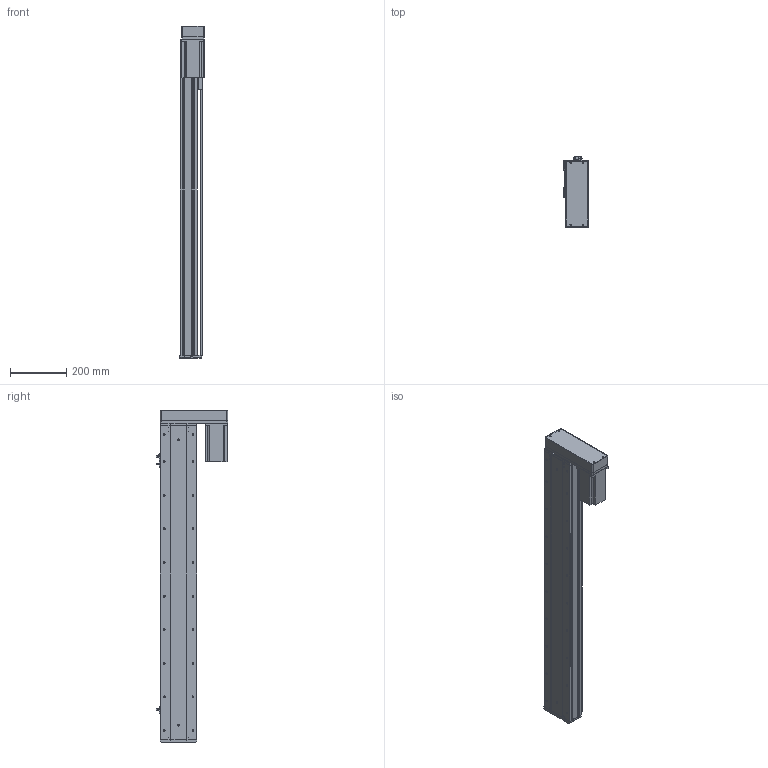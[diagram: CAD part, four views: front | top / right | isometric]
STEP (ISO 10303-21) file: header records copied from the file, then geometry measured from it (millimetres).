
FILE_DESCRIPTION (( 'STEP AP214' ), '1' );
FILE_NAME ('KSD130-P2010-S900-MR-CM.STEP', '2019-09-17T08:43:08', ( '微软用户' ), ( '微软中国' ), 'SwSTEP 2.0', 'SolidWorks 2014', '' );
FILE_SCHEMA (( 'AUTOMOTIVE_DESIGN' ));
Length unit declared in the file: millimetre
Products named in the file (11): 台达ECMA－C20807AS伺服电机; 130宽模组马达安装板连板左右折丝杆; U倰嫖萇EEㄜSX672; 覜茼え100遵圉猾敕; 130宽盖板半封闭丝杠-900行程; 130宽滚珠丝杆安装板半封闭-20丝杠; 130宽马达安装板半封闭; 130遵傷裔圉猾敕; 130宽底板半封闭丝杠-900行程; KSD130-P2010-S900-MR-CM; 130宽模组保护罩左右折
Assembly tree (12 placements, depth 2):
  KSD130-P2010-S900-MR-CM
    130宽底板半封闭丝杠-900行程
    130遵傷裔圉猾敕
    130宽马达安装板半封闭
    130宽滚珠丝杆安装板半封闭-20丝杠
    130宽盖板半封闭丝杠-900行程
    覜茼え100遵圉猾敕
    U倰嫖萇EEㄜSX672  x3
    130宽模组马达安装板连板左右折丝杆
    台达ECMA－C20807AS伺服电机
    130宽模组保护罩左右折
Bounding box: 86 x 253.7 x 1185.5 mm (x, y, z)
Volume: 4500131.7 mm3; surface area: 1245683.5 mm2
Topology: 13 solids, 13 shells, 1402 faces, 3975 edges, 2529 vertices
Faces by surface type: cylinder 677, plane 566, cone 159
Entity records: 46500 total; most frequent: CARTESIAN_POINT 8914, DIRECTION 6801, ORIENTED_EDGE 6598, EDGE_CURVE 3299, AXIS2_PLACEMENT_3D 2472, VERTEX_POINT 2153, VECTOR 1857, LINE 1857
